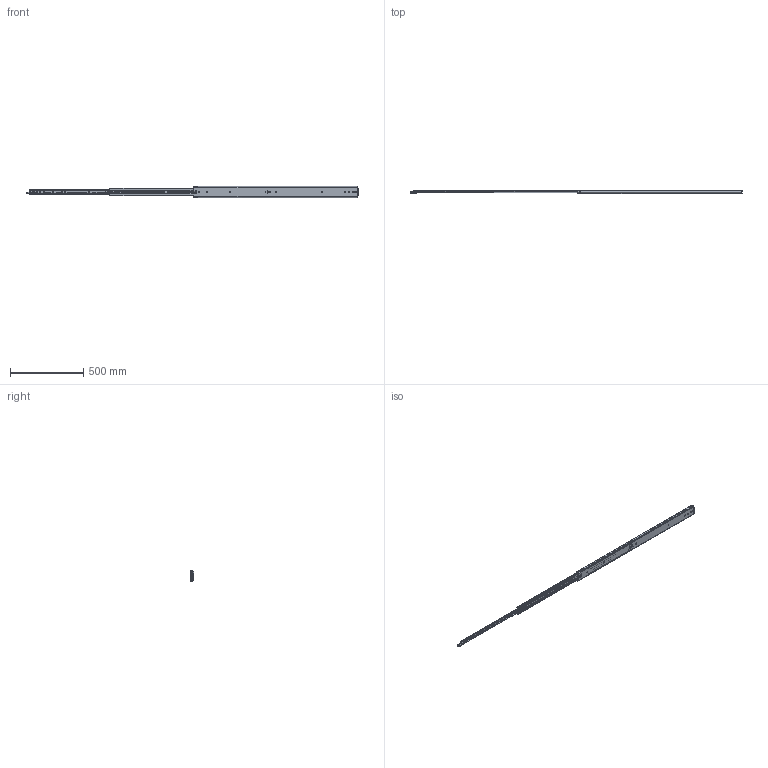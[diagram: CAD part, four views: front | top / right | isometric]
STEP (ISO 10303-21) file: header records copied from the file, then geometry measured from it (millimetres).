
FILE_DESCRIPTION((''),'2;1');
FILE_NAME('DG-76-3S-44ZUO_ASM','2023-05-11T',('jishu015'),(''),'PRO/ENGINEER BY PARAMETRIC TECHNOLOGY CORPORATION, 2010280','PRO/ENGINEER BY PARAMETRIC TECHNOLOGY CORPORATION, 2010280','');
FILE_SCHEMA(('CONFIG_CONTROL_DESIGN'));
Products named in the file (29): KP-76-04WAIKE-1816__________; 1076-WAIKEZIDANJIAO16__________; WAIK16___________ASM; 1076XIAOZHUTIAO-22516__________; 16__________; 1076XIAOZHUTIAO-17516___________ASM; KP-76-04ZHONGGUI1816__________; 76CHANGGUIZHONGGUIJIAO1621__; 3X6WODIN16__________; ZHONGGUIBAIKOU16__________; PJ-76-30_________; PJ-76-03_________; 76-XIAOZHUJIA-11_________; GANGZHU-XIAO_________; ZHUJIA-XIAO__________ASM; ZHONGGUI6___________ASM; KP-76-04NEIGUI1816__________; PJ-76-31_________; DAOGPIAN16__________; 1053-3SBANJ01_________; JIAO-11_________; 76XINSUOKOU_________; PJ-338_________; PJ-356_________; PJ-357_________; PJ-336_________; M4X4_________; NEIGUI16___________ASM; DG-76-3S-44ZUO_ASM
Assembly tree (88 placements, depth 4):
  DG-76-3S-44ZUO_ASM
    WAIK16___________ASM
      KP-76-04WAIKE-1816__________
      1076-WAIKEZIDANJIAO16__________  x2
    1076XIAOZHUTIAO-17516___________ASM  x2
      1076XIAOZHUTIAO-22516__________
      16__________
    ZHONGGUI6___________ASM
      KP-76-04ZHONGGUI1816__________
      76CHANGGUIZHONGGUIJIAO1621__
      3X6WODIN16__________
      ZHONGGUIBAIKOU16__________
      PJ-76-30_________
      PJ-76-03_________
      ZHUJIA-XIAO__________ASM
        76-XIAOZHUJIA-11_________
        GANGZHU-XIAO_________  x40
    NEIGUI16___________ASM
      KP-76-04NEIGUI1816__________
      PJ-76-31_________
      DAOGPIAN16__________
      1053-3SBANJ01_________
      JIAO-11_________
      76XINSUOKOU_________
      PJ-338_________
      PJ-356_________
      PJ-357_________
      PJ-336_________
      M4X4_________
Bounding box: 2261.12 x 20.7 x 75.3 mm (x, y, z)
Volume: 736001.8 mm3; surface area: 708199.1 mm2
Topology: 104 solids, 104 shells, 2517 faces, 7677 edges, 4851 vertices
Faces by surface type: plane 1299, cylinder 924, sphere 167, bspline 60, cone 28, extrusion 23, torus 16
Entity records: 80931 total; most frequent: CARTESIAN_POINT 21562, ORIENTED_EDGE 13030, DIRECTION 11738, EDGE_CURVE 6515, VERTEX_POINT 4247, AXIS2_PLACEMENT_3D 4066, VECTOR 3606, LINE 3583
